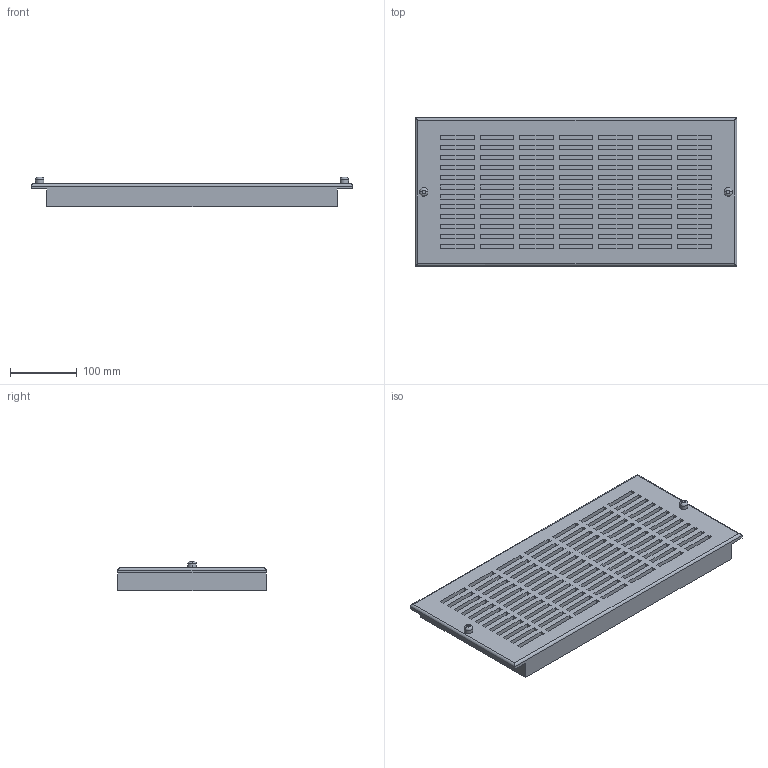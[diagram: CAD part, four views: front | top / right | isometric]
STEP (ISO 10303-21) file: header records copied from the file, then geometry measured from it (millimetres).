
FILE_DESCRIPTION (( 'STEP AP203' ), '1' );
FILE_NAME ('875g19.STEP', '2013-07-23T13:34:36', ( 'User' ), ( 'Pentair Inc' ), 'SwSTEP 2.0', 'SolidWorks 2010', '' );
FILE_SCHEMA (( 'CONFIG_CONTROL_DESIGN' ));
Length unit declared in the file: inch
Products named in the file (1): 875g19
Bounding box: 482.6 x 222.25 x 44.32 mm (x, y, z)
Volume: 3237136.4 mm3; surface area: 337457.2 mm2
Topology: 1 solids, 1 shells, 444 faces, 1060 edges, 704 vertices
Faces by surface type: plane 432, cylinder 8, torus 4
Entity records: 12655 total; most frequent: CARTESIAN_POINT 2221, ORIENTED_EDGE 2120, DIRECTION 1962, EDGE_CURVE 1060, LINE 1040, VECTOR 1040, VERTEX_POINT 704, EDGE_LOOP 530
